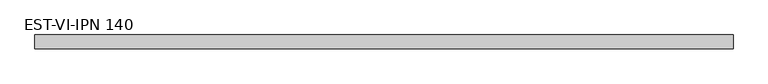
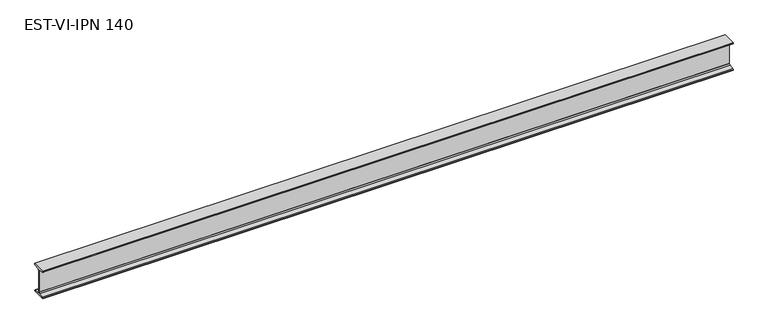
"""IFC4 building model written with IfcOpenShell, lengths in millimetres: beam geometry, EST-VI-PNI-Acero : EST-VI-IPN 140."""

from ifc_helpers import new_model, si_unit, point, frame, frame_2d, origin, place, context, project, spatial, polyline, circle_curve, trimmed, segment, composite_curve, outline, extrude, source, transform, mapped, element, save


def est_vi_ipn_140_513cc523(model_context):
    return source(origin(), model_context, "Body", "SweptSolid", [
        extrude(outline(composite_curve([segment(polyline([(33.0, 70.0), (33.0, 66.6671583)]), True, "CONTINUOUS"), segment(trimmed(circle_curve(frame_2d((29.6, 66.6671583)), 3.4), [point((33.0, 66.6671583))], [point((30.0714027, 63.2999964))], False, "CARTESIAN"), True, "CONTINUOUS"), segment(polyline([(30.0714027, 63.2999964), (7.7597073, 60.176359)]), True, "CONTINUOUS"), segment(trimmed(circle_curve(frame_2d((8.55, 54.5314111)), 5.7), [point((7.7597073, 60.176359))], [point((2.85, 54.5314111))], True, "CARTESIAN"), True, "CONTINUOUS"), segment(polyline([(2.85, 54.5314111), (2.85, -54.5314111)]), True, "CONTINUOUS"), segment(trimmed(circle_curve(frame_2d((8.55, -54.5314111)), 5.7), [point((2.85, -54.5314111))], [point((7.7597073, -60.176359))], True, "CARTESIAN"), True, "CONTINUOUS"), segment(polyline([(7.7597073, -60.176359), (30.0714027, -63.2999964)]), True, "CONTINUOUS"), segment(trimmed(circle_curve(frame_2d((29.6, -66.6671583)), 3.4), [point((30.0714027, -63.2999964))], [point((33.0, -66.6671583))], False, "CARTESIAN"), True, "CONTINUOUS"), segment(polyline([(33.0, -66.6671583), (33.0, -70.0), (-33.0, -70.0), (-33.0, -66.6671583)]), True, "CONTINUOUS"), segment(trimmed(circle_curve(frame_2d((-29.6, -66.6671583)), 3.4), [point((-33.0, -66.6671583))], [point((-30.0714027, -63.2999964))], False, "CARTESIAN"), True, "CONTINUOUS"), segment(polyline([(-30.0714027, -63.2999964), (-7.7597073, -60.176359)]), True, "CONTINUOUS"), segment(trimmed(circle_curve(frame_2d((-8.55, -54.5314111)), 5.7), [point((-7.7597073, -60.176359))], [point((-2.85, -54.5314111))], True, "CARTESIAN"), True, "CONTINUOUS"), segment(polyline([(-2.85, -54.5314111), (-2.85, 54.5314111)]), True, "CONTINUOUS"), segment(trimmed(circle_curve(frame_2d((-8.55, 54.5314111)), 5.7), [point((-2.85, 54.5314111))], [point((-7.7597073, 60.176359))], True, "CARTESIAN"), True, "CONTINUOUS"), segment(polyline([(-7.7597073, 60.176359), (-30.0714027, 63.2999964)]), True, "CONTINUOUS"), segment(trimmed(circle_curve(frame_2d((-29.6, 66.6671583)), 3.4), [point((-30.0714027, 63.2999964))], [point((-33.0, 66.6671583))], False, "CARTESIAN"), True, "CONTINUOUS"), segment(polyline([(-33.0, 66.6671583), (-33.0, 70.0), (33.0, 70.0)]), True, "CONTINUOUS")], self_intersect=False)), frame((-1655.0, 0.0, 0.0), z_axis=(1.0, 0.0, 0.0), x_axis=(0.0, 1.0, 0.0)), (0.0, 0.0, 1.0), 3325.0),
    ])


if __name__ == "__main__":
    model = new_model("IFC4")
    model_context = context("Model", 3, world=origin())
    ifc_project = project(units=[si_unit("LENGTHUNIT", "METRE", prefix="MILLI")], contexts=[model_context])
    site = spatial("IfcSite", under=ifc_project)
    building = spatial("IfcBuilding", under=site)
    placement = place(None, origin())
    est_vi_ipn_140_shape = est_vi_ipn_140_513cc523(model_context)
    element("IfcBeam", 1, ObjectType="EST-VI-PNI-Acero : EST-VI-IPN 140", at=placement, inside=building, context=model_context, shape_type="MappedRepresentation", body=[
        mapped(est_vi_ipn_140_shape, transform((0.0, 0.0, 0.0), x_axis=(1.0, 0.0, 0.0), y_axis=(0.0, 1.0, 0.0), z_axis=(0.0, 0.0, 1.0))),
    ])
    save(model, "model.ifc")
